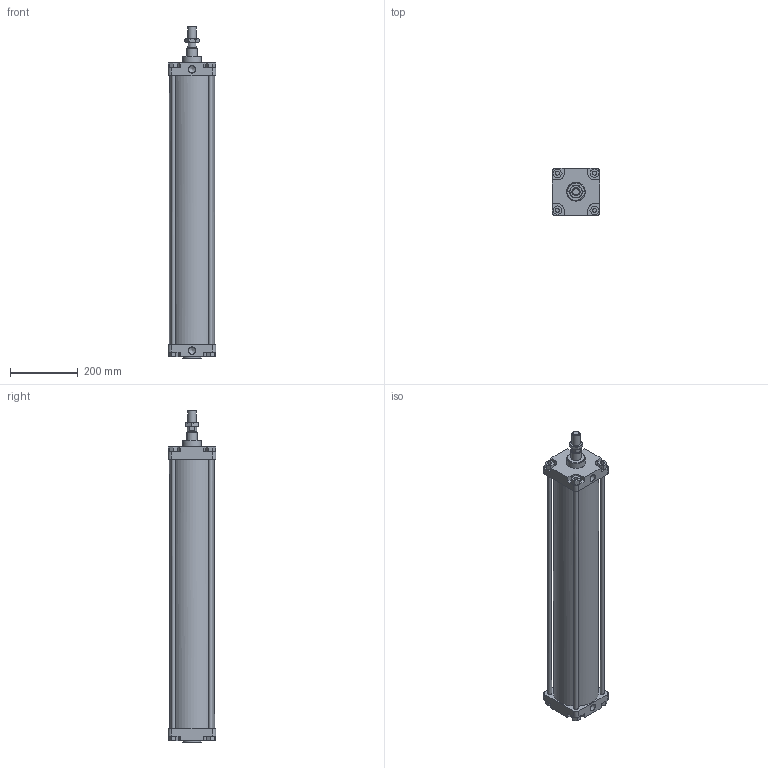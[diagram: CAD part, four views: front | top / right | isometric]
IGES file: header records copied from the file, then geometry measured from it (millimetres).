
Global section: file name: 1304_125_0700_01A; native system: Autodesk Inventor 2014; preprocessor: unknown; author: A. Manieri; date: 20161124.142526; units: millimetre
Bounding box: 140 x 140 x 980 mm (x, y, z)
Volume: 4723893.2 mm3; surface area: 1059659.6 mm2
Topology: 9 solids, 9 shells, 175 faces, 440 edges, 295 vertices
Faces by surface type: bspline 175
